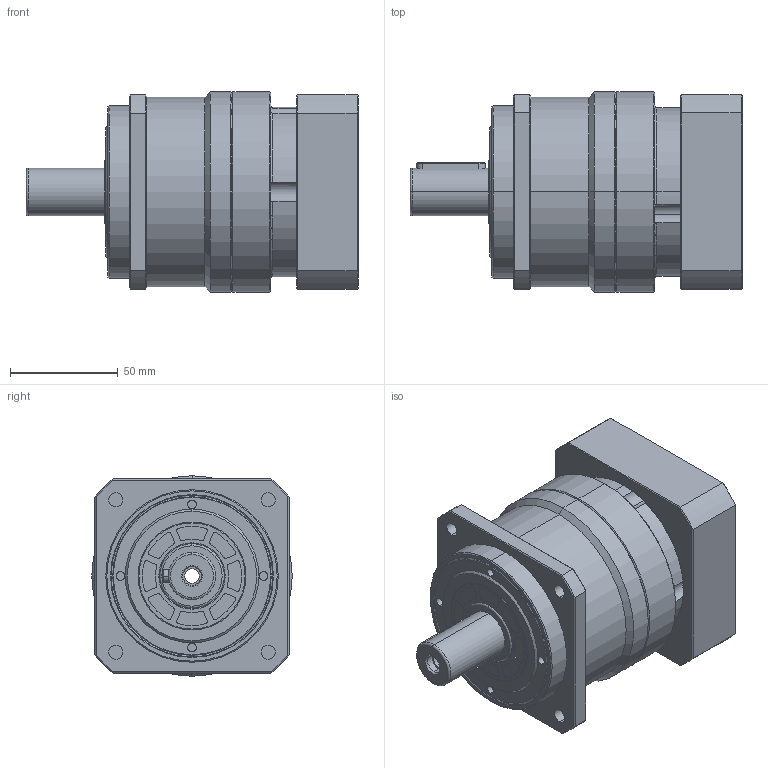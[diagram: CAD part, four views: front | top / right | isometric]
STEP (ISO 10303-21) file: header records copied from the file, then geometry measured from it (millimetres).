
FILE_DESCRIPTION (( 'STEP AP203' ), '1' );
FILE_NAME ('KS90-5-73-14-48-M6-98.5.STEP', '2020-08-12T02:12:39', ( '微软用户' ), ( '微软中国' ), 'SwSTEP 2.0', 'SolidWorks 2008', '' );
FILE_SCHEMA (( 'CONFIG_CONTROL_DESIGN' ));
Length unit declared in the file: millimetre
Products named in the file (1): KS90-5-73-14-48-M6-98.5
Bounding box: 154 x 93 x 93 mm (x, y, z)
Surface area: 85822.4 mm2 (no closed solid volume)
Topology: 0 solids, 29 shells, 410 faces, 1305 edges, 900 vertices
Faces by surface type: plane 161, cylinder 145, cone 69, torus 35
Entity records: 14915 total; most frequent: CARTESIAN_POINT 3205, DIRECTION 2586, ORIENTED_EDGE 2134, EDGE_CURVE 1297, AXIS2_PLACEMENT_3D 991, VERTEX_POINT 900, LINE 604, VECTOR 604
